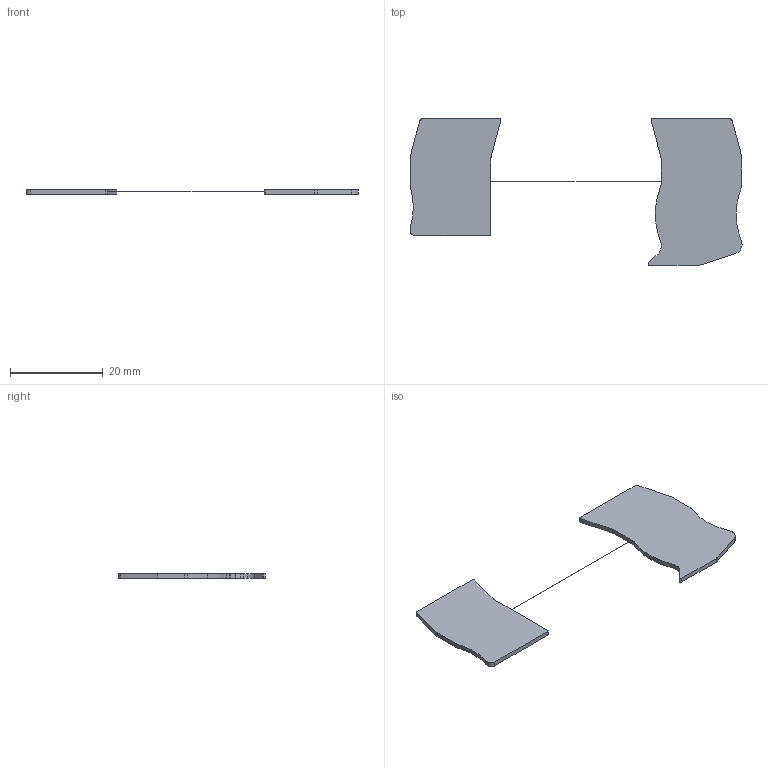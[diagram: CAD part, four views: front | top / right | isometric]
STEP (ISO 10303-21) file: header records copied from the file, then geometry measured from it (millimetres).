
FILE_DESCRIPTION(('OneSpaceDesigner STEP Export'),'2;1');
FILE_NAME('3205200_ds_qtc15_select.stp','2005-11-23T13:56:48',(''),(''),'OneSpace Designer STEP processor for AP203 (Solid Model)','OneSpace Designer 13.01 05-Feb-2005 (C) CoCreate Software GmbH','');
FILE_SCHEMA(('CONFIG_CONTROL_DESIGN'));
Length unit declared in the file: millimetre
Products named in the file (2): 3205200_ds_qtc15_select
Assembly tree (1 placements, depth 2):
  3205200_ds_qtc15_select
    3205200_ds_qtc15_select
Bounding box: 71.55 x 31.55 x 1 mm (x, y, z)
Volume: 975.6 mm3; surface area: 2137.9 mm2
Topology: 1 solids, 1 shells, 54 faces, 150 edges, 100 vertices
Faces by surface type: cylinder 29, plane 25
Entity records: 2284 total; most frequent: ORIENTED_EDGE 300, CARTESIAN_POINT 288, DIRECTION 284, EDGE_CURVE 150, VERTEX_POINT 100, AXIS2_PLACEMENT_3D 96, VECTOR 92, LINE 92
